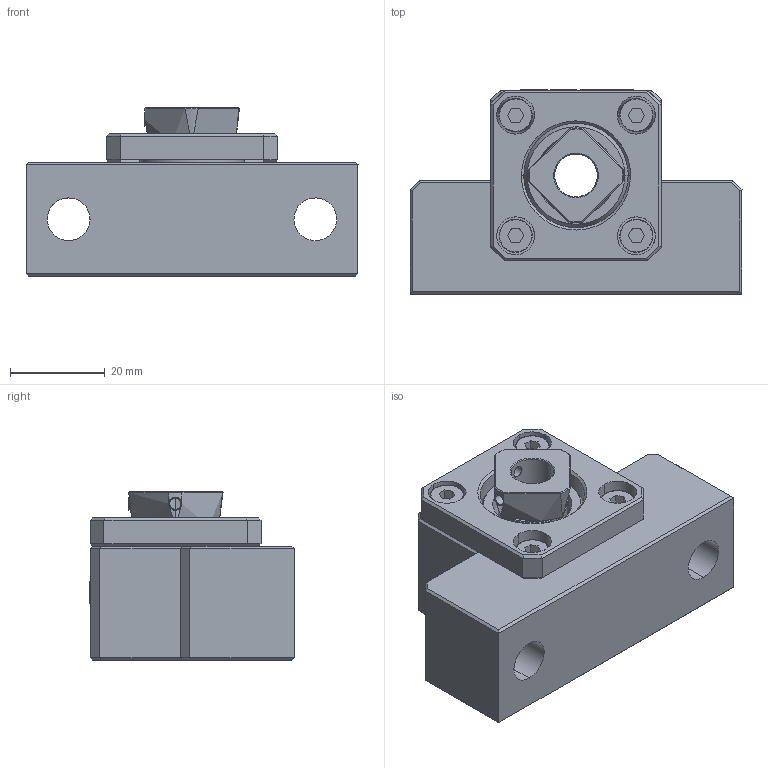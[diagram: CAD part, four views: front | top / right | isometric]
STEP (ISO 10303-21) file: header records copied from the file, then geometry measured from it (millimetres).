
FILE_DESCRIPTION (( 'STEP AP214' ), '1' );
FILE_NAME ('7.4029 EK10.STEP', '2026-03-06T07:57:34', ( '' ), ( '' ), 'SwSTEP 2.0', 'SolidWorks 2025', '' );
FILE_SCHEMA (( 'AUTOMOTIVE_DESIGN' ));
Length unit declared in the file: millimetre
Products named in the file (1): 7.4029 EK10
Bounding box: 70 x 43.1 x 35.5 mm (x, y, z)
Surface area: 16360.8 mm2 (no closed solid volume)
Topology: 0 solids, 13 shells, 246 faces, 617 edges, 389 vertices
Faces by surface type: plane 128, cylinder 48, cone 41, bspline 29
Entity records: 12850 total; most frequent: CARTESIAN_POINT 7985, ORIENTED_EDGE 1150, EDGE_CURVE 617, B_SPLINE_CURVE_WITH_KNOTS 597, DIRECTION 436, VERTEX_POINT 389, EDGE_LOOP 276, FACE_OUTER_BOUND 246
